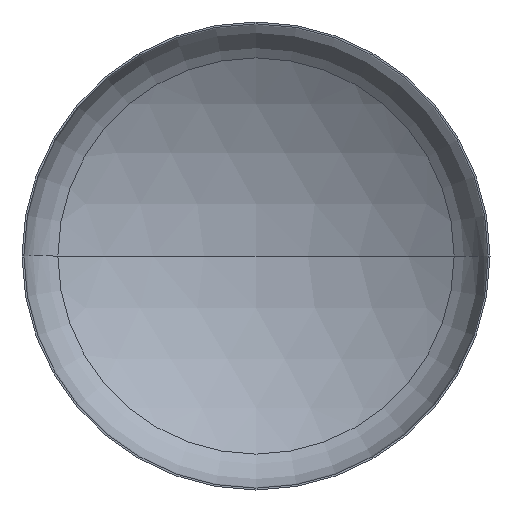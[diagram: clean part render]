
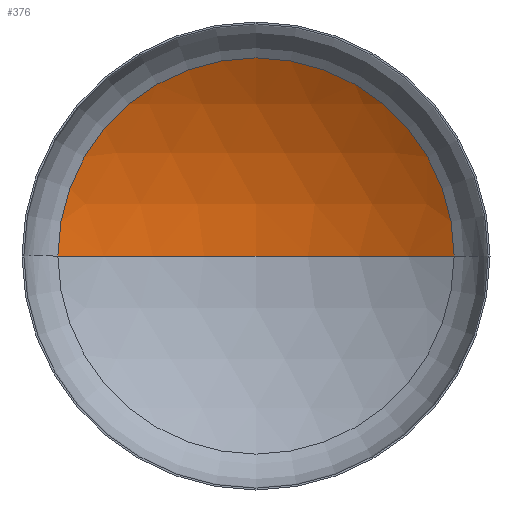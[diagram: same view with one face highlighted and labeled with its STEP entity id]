
A CAD part, front view. The second image highlights one B-rep face of the part: STEP entity #376.
In plain terms, the highlighted spherical face has radius 3600 mm.
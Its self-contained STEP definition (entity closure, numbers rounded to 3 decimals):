
#2 = VERTEX_POINT ( 'NONE', #266 ) ;
#9 = DIRECTION ( 'NONE',  ( -1., 0., 0. ) ) ;
#17 = EDGE_LOOP ( 'NONE', ( #75, #106, #24 ) ) ;
#23 = DIRECTION ( 'NONE',  ( 1., 0., 0. ) ) ;
#24 = ORIENTED_EDGE ( 'NONE', *, *, #153, .T. ) ;
#25 = VERTEX_POINT ( 'NONE', #303 ) ;
#28 = DIRECTION ( 'NONE',  ( 0., 0., 1. ) ) ;
#75 = ORIENTED_EDGE ( 'NONE', *, *, #161, .F. ) ;
#77 = CARTESIAN_POINT ( 'NONE',  ( 0., -2410.087, 0. ) ) ;
#84 = AXIS2_PLACEMENT_3D ( 'NONE', #335, #28, #23 ) ;
#97 = AXIS2_PLACEMENT_3D ( 'NONE', #77, #297, #144 ) ;
#104 = AXIS2_PLACEMENT_3D ( 'NONE', #224, #227, #202 ) ;
#106 = ORIENTED_EDGE ( 'NONE', *, *, #154, .T. ) ;
#115 = CARTESIAN_POINT ( 'NONE',  ( -1904.716, 644.754, 0. ) ) ;
#144 = DIRECTION ( 'NONE',  ( -1., 0., 0. ) ) ;
#153 = EDGE_CURVE ( 'NONE', #25, #298, #393, .T. ) ;
#154 = EDGE_CURVE ( 'NONE', #2, #25, #334, .T. ) ;
#156 = CARTESIAN_POINT ( 'NONE',  ( 0., -2410.087, 0. ) ) ;
#161 = EDGE_CURVE ( 'NONE', #2, #298, #209, .T. ) ;
#181 = AXIS2_PLACEMENT_3D ( 'NONE', #156, #277, #9 ) ;
#202 = DIRECTION ( 'NONE',  ( 1., 0., 0. ) ) ;
#209 = CIRCLE ( 'NONE', #84, 3600. ) ;
#224 = CARTESIAN_POINT ( 'NONE',  ( 0., 644.754, 0. ) ) ;
#227 = DIRECTION ( 'NONE',  ( 0., -1., 0. ) ) ;
#266 = CARTESIAN_POINT ( 'NONE',  ( 0., 1189.913, 0. ) ) ;
#277 = DIRECTION ( 'NONE',  ( 0., 0., -1. ) ) ;
#297 = DIRECTION ( 'NONE',  ( 0., 0., -1. ) ) ;
#298 = VERTEX_POINT ( 'NONE', #115 ) ;
#303 = CARTESIAN_POINT ( 'NONE',  ( 1904.716, 644.754, 0. ) ) ;
#334 = CIRCLE ( 'NONE', #97, 3600. ) ;
#335 = CARTESIAN_POINT ( 'NONE',  ( 0., -2410.087, 0. ) ) ;
#347 = SPHERICAL_SURFACE ( 'NONE', #181, 3600. ) ;
#354 = FACE_OUTER_BOUND ( 'NONE', #17, .T. ) ;
#376 = ADVANCED_FACE ( 'NONE', ( #354 ), #347, .F. ) ;
#393 = CIRCLE ( 'NONE', #104, 1904.716 ) ;
